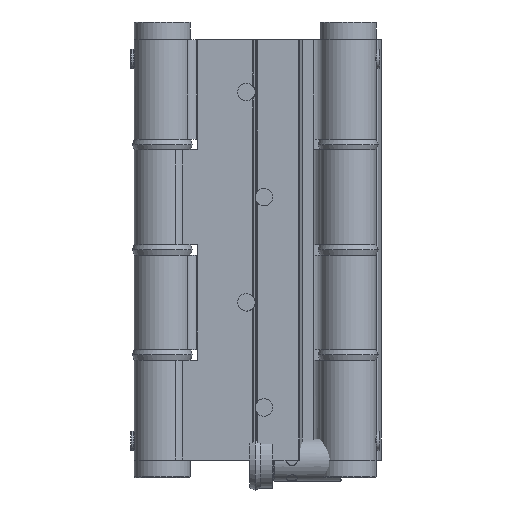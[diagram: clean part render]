
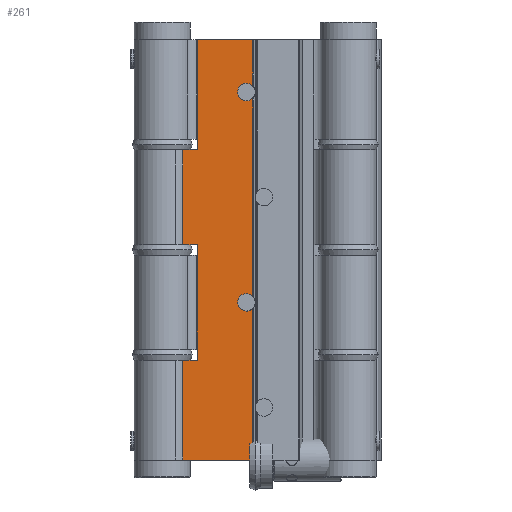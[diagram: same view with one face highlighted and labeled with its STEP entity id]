
A CAD part, front view. The second image highlights one B-rep face of the part: STEP entity #261.
In plain terms, the highlighted planar face has unit normal (0, -1, 0).
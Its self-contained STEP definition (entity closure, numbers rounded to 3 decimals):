
#261 = ADVANCED_FACE( '', ( #699 ), #700, .T. );
#699 = FACE_OUTER_BOUND( '', #1400, .T. );
#700 = PLANE( '', #1401 );
#1400 = EDGE_LOOP( '', ( #2153, #2154, #2155, #2156, #2157, #2158, #2159, #2160, #2161, #2162, #2163, #2164, #2165, #2166 ) );
#1401 = AXIS2_PLACEMENT_3D( '', #2167, #2168, #2169 );
#2153 = ORIENTED_EDGE( '', *, *, #3671, .T. );
#2154 = ORIENTED_EDGE( '', *, *, #3672, .T. );
#2155 = ORIENTED_EDGE( '', *, *, #3673, .T. );
#2156 = ORIENTED_EDGE( '', *, *, #3674, .T. );
#2157 = ORIENTED_EDGE( '', *, *, #3675, .T. );
#2158 = ORIENTED_EDGE( '', *, *, #3676, .F. );
#2159 = ORIENTED_EDGE( '', *, *, #3677, .T. );
#2160 = ORIENTED_EDGE( '', *, *, #3678, .T. );
#2161 = ORIENTED_EDGE( '', *, *, #3679, .T. );
#2162 = ORIENTED_EDGE( '', *, *, #3680, .F. );
#2163 = ORIENTED_EDGE( '', *, *, #3681, .F. );
#2164 = ORIENTED_EDGE( '', *, *, #3682, .T. );
#2165 = ORIENTED_EDGE( '', *, *, #3683, .T. );
#2166 = ORIENTED_EDGE( '', *, *, #3684, .T. );
#2167 = CARTESIAN_POINT( '', ( 21.817, 13.392, 0. ) );
#2168 = DIRECTION( '', ( 0., -1., 0. ) );
#2169 = DIRECTION( '', ( 0., 0., -1. ) );
#3671 = EDGE_CURVE( '', #4307, #4308, #4309, .T. );
#3672 = EDGE_CURVE( '', #4308, #4310, #4311, .T. );
#3673 = EDGE_CURVE( '', #4310, #4312, #4313, .T. );
#3674 = EDGE_CURVE( '', #4312, #4314, #4315, .T. );
#3675 = EDGE_CURVE( '', #4314, #4316, #4317, .T. );
#3676 = EDGE_CURVE( '', #4318, #4316, #4319, .T. );
#3677 = EDGE_CURVE( '', #4318, #4320, #4321, .T. );
#3678 = EDGE_CURVE( '', #4320, #4322, #4323, .T. );
#3679 = EDGE_CURVE( '', #4322, #4324, #4325, .T. );
#3680 = EDGE_CURVE( '', #4326, #4324, #4327, .T. );
#3681 = EDGE_CURVE( '', #4328, #4326, #4329, .T. );
#3682 = EDGE_CURVE( '', #4328, #4330, #4331, .T. );
#3683 = EDGE_CURVE( '', #4330, #4332, #4333, .T. );
#3684 = EDGE_CURVE( '', #4332, #4307, #4334, .T. );
#4307 = VERTEX_POINT( '', #5302 );
#4308 = VERTEX_POINT( '', #5303 );
#4309 = CIRCLE( '', #5304, 2.5 );
#4310 = VERTEX_POINT( '', #5305 );
#4311 = LINE( '', #5306, #5307 );
#4312 = VERTEX_POINT( '', #5308 );
#4313 = LINE( '', #5309, #5310 );
#4314 = VERTEX_POINT( '', #5311 );
#4315 = LINE( '', #5312, #5313 );
#4316 = VERTEX_POINT( '', #5314 );
#4317 = LINE( '', #5315, #5316 );
#4318 = VERTEX_POINT( '', #5317 );
#4319 = LINE( '', #5318, #5319 );
#4320 = VERTEX_POINT( '', #5320 );
#4321 = LINE( '', #5321, #5322 );
#4322 = VERTEX_POINT( '', #5323 );
#4323 = LINE( '', #5324, #5325 );
#4324 = VERTEX_POINT( '', #5326 );
#4325 = LINE( '', #5327, #5328 );
#4326 = VERTEX_POINT( '', #5329 );
#4327 = LINE( '', #5330, #5331 );
#4328 = VERTEX_POINT( '', #5332 );
#4329 = LINE( '', #5333, #5334 );
#4330 = VERTEX_POINT( '', #5335 );
#4331 = LINE( '', #5336, #5337 );
#4332 = VERTEX_POINT( '', #5338 );
#4333 = CIRCLE( '', #5339, 2.5 );
#4334 = LINE( '', #5340, #5341 );
#5302 = CARTESIAN_POINT( '', ( 21.817, 13.392, 103.318 ) );
#5303 = CARTESIAN_POINT( '', ( 21.817, 13.392, 106.682 ) );
#5304 = AXIS2_PLACEMENT_3D( '', #7181, #7182, #7183 );
#5305 = CARTESIAN_POINT( '', ( 21.817, 13.392, 120. ) );
#5306 = CARTESIAN_POINT( '', ( 21.817, 13.392, 106.682 ) );
#5307 = VECTOR( '', #7184, 1000. );
#5308 = CARTESIAN_POINT( '', ( 5.967, 13.392, 120. ) );
#5309 = CARTESIAN_POINT( '', ( 21.817, 13.392, 120. ) );
#5310 = VECTOR( '', #7185, 1000. );
#5311 = CARTESIAN_POINT( '', ( 5.967, 13.392, 88.5 ) );
#5312 = CARTESIAN_POINT( '', ( 5.967, 13.392, 120. ) );
#5313 = VECTOR( '', #7186, 1000. );
#5314 = CARTESIAN_POINT( '', ( 1.776, 13.392, 88.5 ) );
#5315 = CARTESIAN_POINT( '', ( 5.967, 13.392, 88.5 ) );
#5316 = VECTOR( '', #7187, 1000. );
#5317 = CARTESIAN_POINT( '', ( 1.776, 13.392, 61.5 ) );
#5318 = CARTESIAN_POINT( '', ( 1.776, 13.392, 61.5 ) );
#5319 = VECTOR( '', #7188, 1000. );
#5320 = CARTESIAN_POINT( '', ( 5.967, 13.392, 61.5 ) );
#5321 = CARTESIAN_POINT( '', ( 1.776, 13.392, 61.5 ) );
#5322 = VECTOR( '', #7189, 1000. );
#5323 = CARTESIAN_POINT( '', ( 5.967, 13.392, 28.5 ) );
#5324 = CARTESIAN_POINT( '', ( 5.967, 13.392, 61.5 ) );
#5325 = VECTOR( '', #7190, 1000. );
#5326 = CARTESIAN_POINT( '', ( 1.776, 13.392, 28.5 ) );
#5327 = CARTESIAN_POINT( '', ( 5.967, 13.392, 28.5 ) );
#5328 = VECTOR( '', #7191, 1000. );
#5329 = CARTESIAN_POINT( '', ( 1.776, 13.392, 0. ) );
#5330 = CARTESIAN_POINT( '', ( 1.776, 13.392, 0. ) );
#5331 = VECTOR( '', #7192, 1000. );
#5332 = CARTESIAN_POINT( '', ( 21.817, 13.392, 0. ) );
#5333 = CARTESIAN_POINT( '', ( 21.817, 13.392, 0. ) );
#5334 = VECTOR( '', #7193, 1000. );
#5335 = CARTESIAN_POINT( '', ( 21.817, 13.392, 43.318 ) );
#5336 = CARTESIAN_POINT( '', ( 21.817, 13.392, 0. ) );
#5337 = VECTOR( '', #7194, 1000. );
#5338 = CARTESIAN_POINT( '', ( 21.817, 13.392, 46.682 ) );
#5339 = AXIS2_PLACEMENT_3D( '', #7195, #7196, #7197 );
#5340 = CARTESIAN_POINT( '', ( 21.817, 13.392, 46.682 ) );
#5341 = VECTOR( '', #7198, 1000. );
#7181 = CARTESIAN_POINT( '', ( 19.967, 13.392, 105. ) );
#7182 = DIRECTION( '', ( 0., 1., 0. ) );
#7183 = DIRECTION( '', ( 1., 0., 0. ) );
#7184 = DIRECTION( '', ( 0., 0., 1. ) );
#7185 = DIRECTION( '', ( -1., 0., 0. ) );
#7186 = DIRECTION( '', ( 0., 0., -1. ) );
#7187 = DIRECTION( '', ( -1., 0., 0. ) );
#7188 = DIRECTION( '', ( 0., 0., 1. ) );
#7189 = DIRECTION( '', ( 1., 0., 0. ) );
#7190 = DIRECTION( '', ( 0., 0., -1. ) );
#7191 = DIRECTION( '', ( -1., 0., 0. ) );
#7192 = DIRECTION( '', ( 0., 0., 1. ) );
#7193 = DIRECTION( '', ( -1., 0., 0. ) );
#7194 = DIRECTION( '', ( 0., 0., 1. ) );
#7195 = CARTESIAN_POINT( '', ( 19.967, 13.392, 45. ) );
#7196 = DIRECTION( '', ( 0., 1., 0. ) );
#7197 = DIRECTION( '', ( 1., 0., 0. ) );
#7198 = DIRECTION( '', ( 0., 0., 1. ) );
